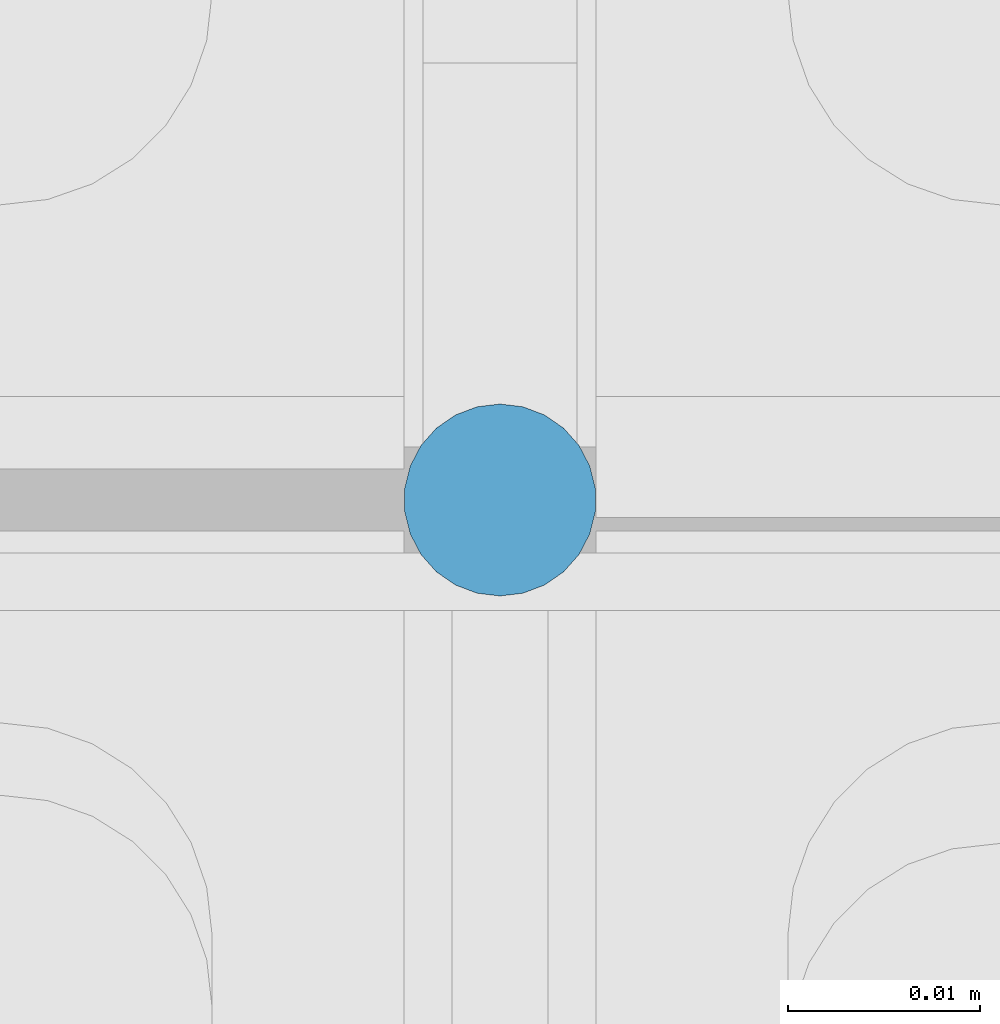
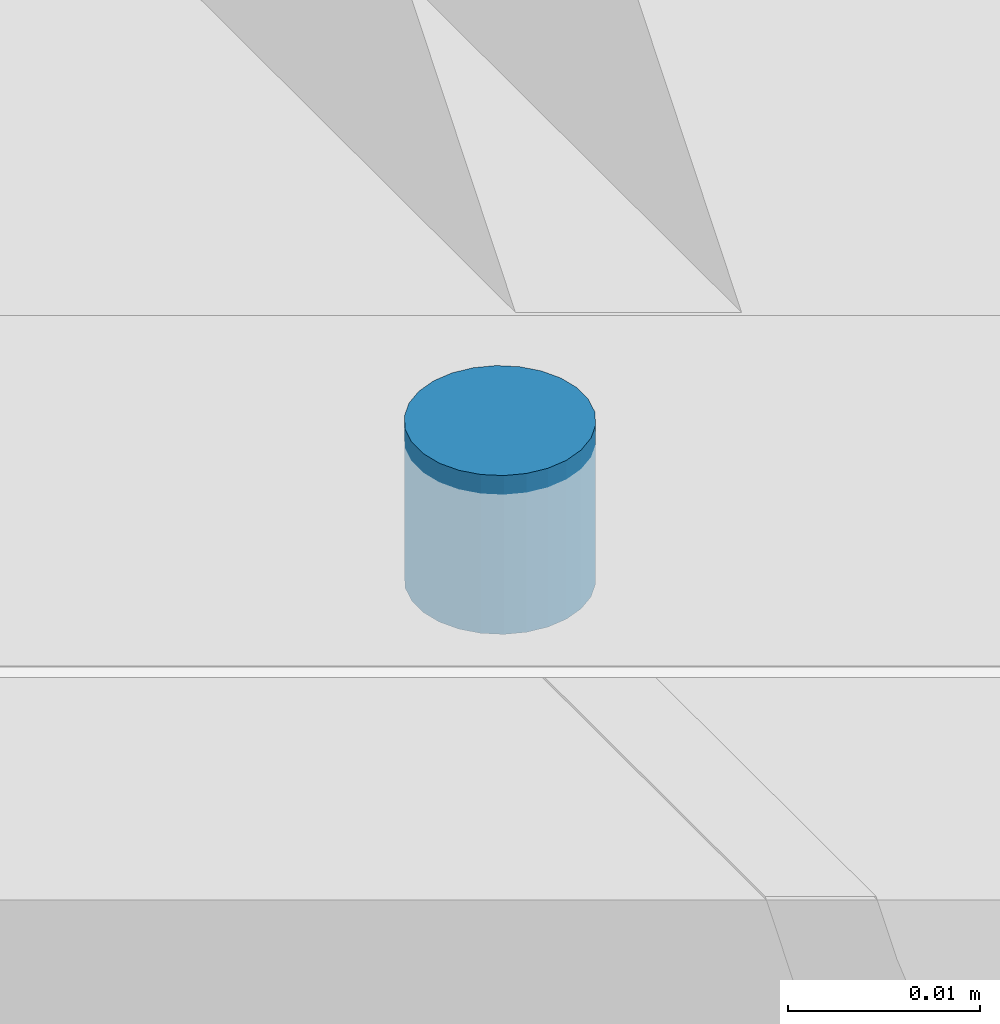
# One storey, part 309 of 362: 1 mechanical fastener.
"""IFC2X3 building model written with IfcOpenShell, lengths in millimetres."""

import ifcopenshell
import ifcopenshell.guid

model = None  # the IFC model being written
_history = None  # IfcOwnerHistory: only IFC2X3 demands one
_inside = {}  # id of a spatial element -> (the spatial element, [elements in it])
_under = {}  # id of a project, library or spatial element -> (it, [spatial elements below it])
_declared = {}  # id of a project -> (the project, [libraries it declares])
_typed = {}  # id of a type object -> (the type object, [elements of that type])
_made_of = {}  # id of a material, layer set ... -> (it, [elements and type objects made of it])


def new_model(schema):
    """Start an empty IFC model of exactly this schema.

    Asked for "IFC4X3", IfcOpenShell would pick the latest addendum, in which some entities
    have other attributes; the version numbers below select the first issue.
    IFC2X3 requires an IfcOwnerHistory on every rooted entity: one is made here for all.
    """
    global model, _history
    if schema == "IFC4X3":
        model = ifcopenshell.file(schema_version=(4, 3, 0, 0))
    else:
        model = ifcopenshell.file(schema=schema)
    _inside.clear()
    _under.clear()
    _declared.clear()
    _typed.clear()
    _made_of.clear()
    _history = None
    if model.schema == "IFC2X3":
        org = make("IfcOrganization", Name="unknown")
        user = make(
            "IfcPersonAndOrganization",
            ThePerson=make("IfcPerson", FamilyName="unknown"),
            TheOrganization=org,
        )
        app = make(
            "IfcApplication",
            ApplicationDeveloper=org,
            Version="unknown",
            ApplicationFullName="unknown",
            ApplicationIdentifier="unknown",
        )
        _history = make(
            "IfcOwnerHistory",
            OwningUser=user,
            OwningApplication=app,
            ChangeAction="ADDED",
            CreationDate=0,
        )
    return model


def make(cls, **values):
    """One entity of the class cls with the attributes given. An attribute that is None is left unset."""
    return model.create_entity(
        cls, **{name: value for name, value in values.items() if value is not None}
    )


def rooted(cls, **values):
    """An entity with a GlobalId (a new one), such as an element, a storey or a relation."""
    return make(cls, GlobalId=ifcopenshell.guid.new(), OwnerHistory=_history, **values)


def si_unit(unit_type, name, prefix=None):
    """IfcSIUnit, for example si_unit("LENGTHUNIT", "METRE", prefix="MILLI")."""
    return make("IfcSIUnit", UnitType=unit_type, Prefix=prefix, Name=name)


def assignment(units):
    """IfcUnitAssignment: the units of a project."""
    return None if units is None else make("IfcUnitAssignment", Units=units)


def point(xyz):
    """IfcCartesianPoint."""
    return None if xyz is None else make("IfcCartesianPoint", Coordinates=xyz)


def direction(xyz):
    """IfcDirection."""
    return None if xyz is None else make("IfcDirection", DirectionRatios=xyz)


def frame(location, z_axis=None, x_axis=None):
    """IfcAxis2Placement3D, a coordinate frame: its origin and axes. An axis left out is left unset."""
    return make(
        "IfcAxis2Placement3D",
        Location=point(location),
        Axis=direction(z_axis),
        RefDirection=direction(x_axis),
    )


def frame_2d(location, x_axis=None):
    """IfcAxis2Placement2D, a coordinate frame in the plane: its origin and x axis."""
    return make(
        "IfcAxis2Placement2D", Location=point(location), RefDirection=direction(x_axis)
    )


def origin_with_axes():
    """The frame at (0, 0, 0) with the z axis (0, 0, 1) and the x axis (1, 0, 0) written out."""
    return frame((0.0, 0.0, 0.0), z_axis=(0.0, 0.0, 1.0), x_axis=(1.0, 0.0, 0.0))


def origin_2d_with_axis():
    """The frame at (0, 0) in the plane with the x axis (1, 0) written out."""
    return frame_2d((0.0, 0.0), x_axis=(1.0, 0.0))


def place(relative_to, where):
    """IfcLocalPlacement: puts the frame where relative to a parent placement (None: the world)."""
    return make(
        "IfcLocalPlacement", PlacementRelTo=relative_to, RelativePlacement=where
    )


def context(
    kind, dimensions, precision=None, world=None, true_north=None, identifier=None
):
    """IfcGeometricRepresentationContext, for example the 3D "Model" context."""
    return make(
        "IfcGeometricRepresentationContext",
        ContextIdentifier=identifier,
        ContextType=kind,
        CoordinateSpaceDimension=dimensions,
        Precision=precision,
        WorldCoordinateSystem=world,
        TrueNorth=true_north,
    )


def subcontext(parent, identifier, kind, view, scale=None):
    """IfcGeometricRepresentationSubContext, for example "Body" below "Model"."""
    return make(
        "IfcGeometricRepresentationSubContext",
        ContextIdentifier=identifier,
        ContextType=kind,
        ParentContext=parent,
        TargetScale=scale,
        TargetView=view,
    )


def project(units=None, contexts=None):
    """IfcProject with its units and contexts."""
    return rooted(
        "IfcProject",
        Name="project",
        RepresentationContexts=contexts,
        UnitsInContext=assignment(units),
    )


def spatial(cls, under=None, at=None, **own):
    """A site, building, storey or space (cls), placed at a placement, below another one or the project."""
    s = rooted(cls, ObjectPlacement=at, **own)
    if under is not None:
        _under.setdefault(under.id(), (under, []))[1].append(s)
    return s


def profile(cls, at=None, kind="AREA", **sizes):
    """A parametric profile (cls). Its sizes go by their IFC names, for example OverallWidth=200.0."""
    return make(cls, ProfileType=kind, Position=at, **sizes)


def circle(**sizes):
    """IfcCircleProfileDef."""
    return profile("IfcCircleProfileDef", **sizes)


def extrude(swept, where, along, depth):
    """IfcExtrudedAreaSolid: the profile swept, set in the frame where, extruded along a direction by depth."""
    return make(
        "IfcExtrudedAreaSolid",
        SweptArea=swept,
        Position=where,
        ExtrudedDirection=direction(along),
        Depth=depth,
    )


def shape(context_of_items, identifier, shape_type, items):
    """IfcShapeRepresentation: the items that make up one representation, for example the "Body"."""
    return make(
        "IfcShapeRepresentation",
        ContextOfItems=context_of_items,
        RepresentationIdentifier=identifier,
        RepresentationType=shape_type,
        Items=items,
    )


def source(mapping_origin, context_of_items, identifier, shape_type, items):
    """IfcRepresentationMap: a shape defined once, which mapped items show again and again."""
    return make(
        "IfcRepresentationMap",
        MappingOrigin=mapping_origin,
        MappedRepresentation=shape(context_of_items, identifier, shape_type, items),
    )


def transform(
    local_origin,
    x_axis=None,
    y_axis=None,
    z_axis=None,
    scale=None,
    scale2=None,
    scale3=None,
    uniform=True,
):
    """IfcCartesianTransformationOperator3D, or its non-uniform kind. x_axis, y_axis, z_axis: its Axis1, 2, 3."""
    if uniform:
        return make(
            "IfcCartesianTransformationOperator3D",
            Axis1=direction(x_axis),
            Axis2=direction(y_axis),
            LocalOrigin=point(local_origin),
            Scale=scale,
            Axis3=direction(z_axis),
        )
    return make(
        "IfcCartesianTransformationOperator3DnonUniform",
        Axis1=direction(x_axis),
        Axis2=direction(y_axis),
        LocalOrigin=point(local_origin),
        Scale=scale,
        Axis3=direction(z_axis),
        Scale2=scale2,
        Scale3=scale3,
    )


def mapped(mapping_source, mapping_target):
    """IfcMappedItem: shows the shape of a source again, moved by a transform."""
    return make(
        "IfcMappedItem", MappingSource=mapping_source, MappingTarget=mapping_target
    )


def material(Name=None, Category=None):
    """IfcMaterial."""
    return make("IfcMaterial", Name=Name, Category=Category)


def made_of(thing, what):
    """Note that an element or type object is made of a material, layer set ...; save() writes the relation."""
    if what is not None:
        _made_of.setdefault(what.id(), (what, []))[1].append(thing)
    return thing


def type_object(cls, material=None, **own):
    """A type object (cls), such as IfcWallType, which elements share."""
    return made_of(rooted(cls, **own), material)


def element(
    cls,
    number,
    at=None,
    inside=None,
    cuts=None,
    type_object=None,
    material=None,
    context=None,
    identifier="Body",
    shape_type=None,
    held_by="IfcProductDefinitionShape",
    body=None,
    shapes=None,
    **own,
):
    """One element of the class cls, such as IfcWall. Its Tag is "e" and its number.

    at: its placement. inside: the storey or other place that contains it. cuts: it is an
    opening in that element (IfcRelVoidsElement). A single representation is given by context,
    identifier, shape_type and body (its items); several are given by shapes. held_by: the class
    of the entity that holds the representations. save() writes the other relations.
    """
    e = rooted(cls, Tag="e%d" % number, ObjectPlacement=at, **own)
    if body is not None:
        shapes = [shape(context, identifier, shape_type, body)]
    if shapes is not None:
        e.Representation = make(held_by, Representations=shapes)
    if inside is not None:
        _inside.setdefault(inside.id(), (inside, []))[1].append(e)
    if cuts is not None:
        rooted(
            "IfcRelVoidsElement", RelatingBuildingElement=cuts, RelatedOpeningElement=e
        )
    if type_object is not None:
        _typed.setdefault(type_object.id(), (type_object, []))[1].append(e)
    return made_of(e, material)


def aggregate(whole, parts):
    """IfcRelAggregates: a whole, such as a stair, and the parts it consists of."""
    return rooted("IfcRelAggregates", RelatingObject=whole, RelatedObjects=parts)


def save(model, path):
    """Write the relations noted so far, then the file.

    IfcRelAggregates (storeys below a building ...), IfcRelContainedInSpatialStructure (elements
    in a storey), IfcRelDefinesByType, IfcRelAssociatesMaterial and IfcRelDeclares: one each for
    every whole, place, type object, material and project.
    """
    for whole, parts in _under.values():
        aggregate(whole, parts)
    for where, things in _inside.values():
        rooted(
            "IfcRelContainedInSpatialStructure",
            RelatedElements=things,
            RelatingStructure=where,
        )
    for kind, things in _typed.values():
        rooted("IfcRelDefinesByType", RelatedObjects=things, RelatingType=kind)
    for what, things in _made_of.values():
        rooted("IfcRelAssociatesMaterial", RelatedObjects=things, RelatingMaterial=what)
    for by, libraries in _declared.values():
        rooted("IfcRelDeclares", RelatingContext=by, RelatedDefinitions=libraries)
    model.write(path)


model = new_model("IFC2X3")

# Units and contexts
model_context = context("Model", 3, precision=1e-05, world=origin_with_axes())
body_context = subcontext(model_context, "Body", "Model", "MODEL_VIEW")
ifc_project = project(units=[si_unit("LENGTHUNIT", "METRE", prefix="MILLI"), si_unit("AREAUNIT", "SQUARE_METRE"), si_unit("VOLUMEUNIT", "CUBIC_METRE"), si_unit("MASSUNIT", "GRAM", prefix="KILO"), si_unit("TIMEUNIT", "SECOND"), si_unit("PLANEANGLEUNIT", "RADIAN"), si_unit("SOLIDANGLEUNIT", "STERADIAN"), si_unit("THERMODYNAMICTEMPERATUREUNIT", "DEGREE_CELSIUS"), si_unit("LUMINOUSINTENSITYUNIT", "LUMEN")], contexts=[model_context])

# Site, building, storey
site_placement = place(None, origin_with_axes())
site = spatial("IfcSite", under=ifc_project, at=site_placement, Name="Undefined", CompositionType="ELEMENT")
building_placement = place(site_placement, origin_with_axes())
building = spatial("IfcBuilding", under=site, at=building_placement, Name="Undefined", CompositionType="ELEMENT")
storey_placement = place(building_placement, origin_with_axes())
storey = spatial("IfcBuildingStorey", under=building, at=storey_placement, Name="Undefined", CompositionType="ELEMENT", Elevation=0.0)

# Mechanical fastener
ifc_material = material(Name="6.8")
mechanical_fastener_type = type_object("IfcMechanicalFastenerType", Name="Bolt assembly")
shared_shape = source(origin_with_axes(), body_context, "Body", "SweptSolid", [
    extrude(circle(Radius=5.0, at=origin_2d_with_axis()), frame((0.0, 0.0, 0.0), z_axis=(0.0, 1.0, 0.0), x_axis=(1.0, 0.0, 0.0)), (0.0, 0.0, 1.0), 10.1),
])
mechanical_fastener_placement = place(storey_placement, frame((34280.0000000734, 0.0, -200.0), z_axis=(1.0, 0.0, 0.0), x_axis=(0.0, -1.0, 0.0)))
element("IfcMechanicalFastener", 1, at=mechanical_fastener_placement, inside=storey, type_object=mechanical_fastener_type, material=ifc_material, Name="Bolt assembly", NominalDiameter=8.0, NominalLength=10.0, context=body_context, shape_type="MappedRepresentation", body=[
    mapped(shared_shape, transform((0.0, 0.0, 0.0))),
])

save(model, "model.ifc")
